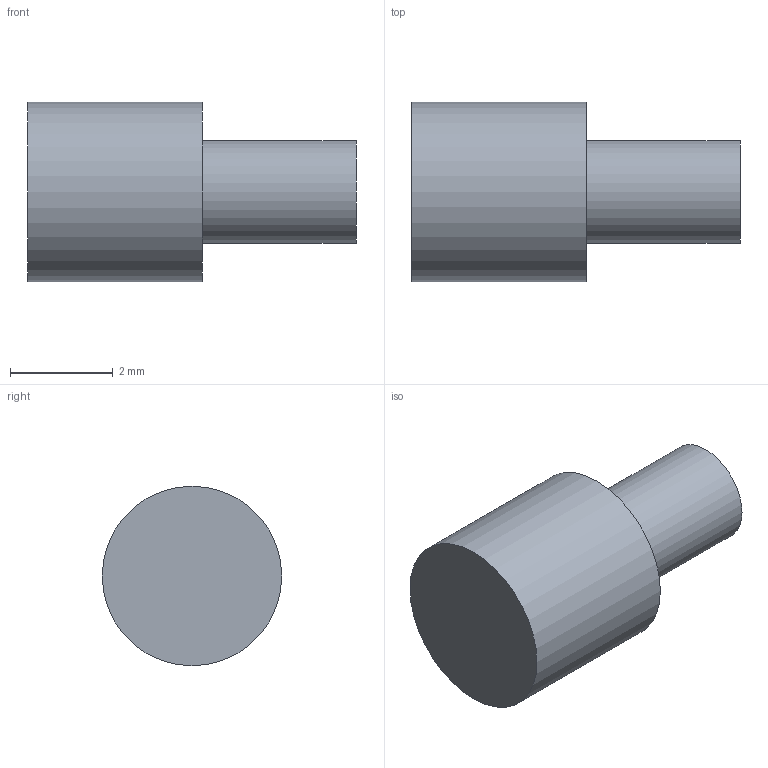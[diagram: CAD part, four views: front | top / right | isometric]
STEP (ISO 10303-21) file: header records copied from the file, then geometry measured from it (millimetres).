
FILE_DESCRIPTION(/* description */ (''),/* implementation_level */ '2;1');
FILE_NAME(/* name */ 'H:\5-Olympiades\47e\Sujet Régional\Etau\A donner aux candidats\2-Après-Midi\06-Verrou de blocage Levier.stp',/* time_stamp */ '2022-03-30T08:35:57+02:00',/* author */ ('Philippe'),/* organization */ (''),/* preprocessor_version */ 'ST-DEVELOPER v18',/* originating_system */ 'Autodesk Inventor 2020',/* authorisation */ '');
FILE_SCHEMA (('AUTOMOTIVE_DESIGN { 1 0 10303 214 3 1 1 }'));
Length unit declared in the file: millimetre
Products named in the file (1): 06-Verrou de blocage Levier
Bounding box: 6.4 x 3.5 x 3.5 mm (x, y, z)
Volume: 42.1 mm3; surface area: 75.5 mm2
Topology: 1 solids, 1 shells, 5 faces, 10 edges, 8 vertices
Faces by surface type: plane 3, cylinder 2
Full cylindrical faces by diameter (mm): 2 x1, 3.5 x1
Entity records: 185 total; most frequent: DIRECTION 30, CARTESIAN_POINT 24, ORIENTED_EDGE 20, AXIS2_PLACEMENT_3D 14, EDGE_CURVE 10, CIRCLE 8, VERTEX_POINT 8, EDGE_LOOP 6
